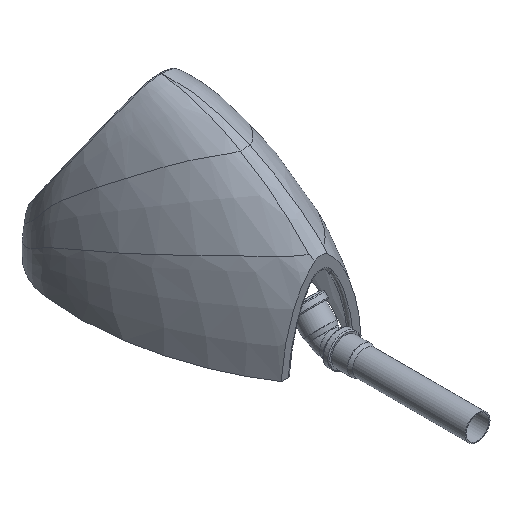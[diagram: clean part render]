
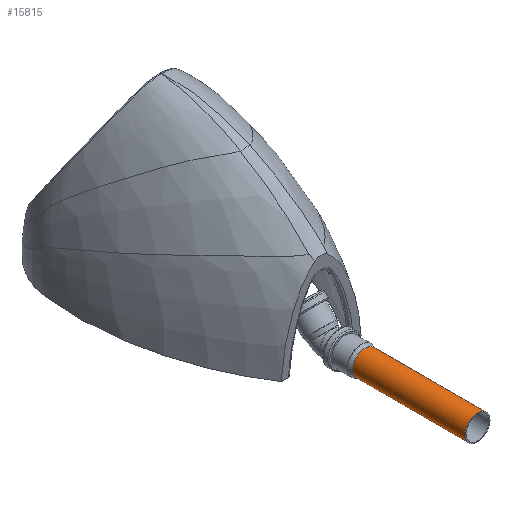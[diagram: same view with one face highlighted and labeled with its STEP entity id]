
A CAD part, isometric view. The second image highlights one B-rep face of the part: STEP entity #15815.
In plain terms, the highlighted cylindrical face has radius 25 mm (diameter 50 mm), a full revolution.
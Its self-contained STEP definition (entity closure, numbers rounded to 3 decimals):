
#15749=CARTESIAN_POINT('',(-25.,225.0,0.0));
#15750=VERTEX_POINT('',#15749);
#15751=CARTESIAN_POINT('',(0.,225.0,0.0));
#15752=DIRECTION('',(0.0,1.,0.0));
#15753=DIRECTION('',(-0.707,0.0,-0.707));
#15754=AXIS2_PLACEMENT_3D('',#15751,#15752,#15753);
#15755=CIRCLE('',#15754,25.);
#15756=EDGE_CURVE('',#15750,#15750,#15755,.F.);
#15789=CARTESIAN_POINT('',(0.,0.,-25.0));
#15790=VERTEX_POINT('',#15789);
#15791=CARTESIAN_POINT('',(0.,0.0,0.0));
#15792=DIRECTION('',(0.0,1.0,0.0));
#15793=DIRECTION('',(0.707,0.0,-0.707));
#15794=AXIS2_PLACEMENT_3D('',#15791,#15792,#15793);
#15795=CIRCLE('',#15794,25.);
#15796=EDGE_CURVE('',#15790,#15790,#15795,.T.);
#15804=CARTESIAN_POINT('',(0.,56.25,0.0));
#15805=DIRECTION('',(0.,1.0,0.0));
#15806=DIRECTION('',(-0.707,0.0,0.707));
#15807=AXIS2_PLACEMENT_3D('',#15804,#15805,#15806);
#15808=CYLINDRICAL_SURFACE('',#15807,25.);
#15809=ORIENTED_EDGE('',*,*,#15796,.T.);
#15810=EDGE_LOOP('',(#15809));
#15811=FACE_OUTER_BOUND('',#15810,.T.);
#15812=ORIENTED_EDGE('',*,*,#15756,.T.);
#15813=EDGE_LOOP('',(#15812));
#15814=FACE_BOUND('',#15813,.T.);
#15815=ADVANCED_FACE('',(#15811,#15814),#15808,.T.);
